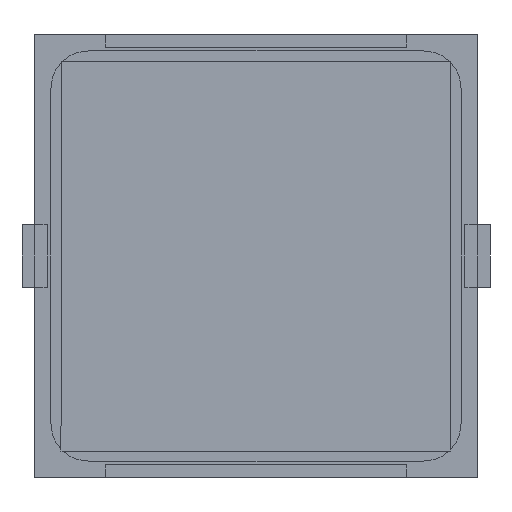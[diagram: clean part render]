
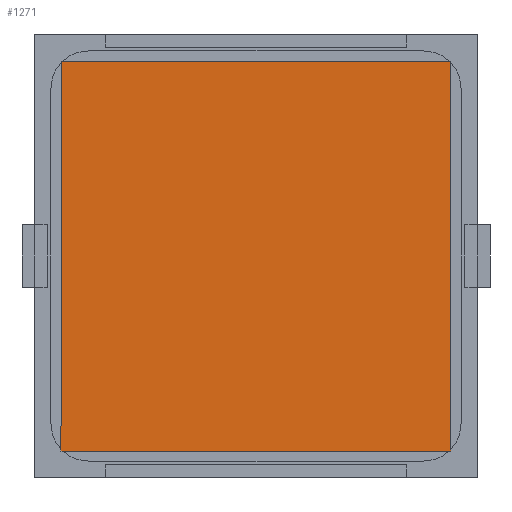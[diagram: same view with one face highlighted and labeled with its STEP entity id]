
A CAD part, front view. The second image highlights one B-rep face of the part: STEP entity #1271.
In plain terms, the highlighted planar face has unit normal (0, -1, 0).
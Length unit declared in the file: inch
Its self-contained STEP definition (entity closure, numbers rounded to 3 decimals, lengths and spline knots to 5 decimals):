
#5 = EDGE_CURVE ( 'NONE', #1664, #9965, #13847, .T. ) ;
#490 = ORIENTED_EDGE ( 'NONE', *, *, #3711, .F. ) ;
#1261 = VECTOR ( 'NONE', #11108, 39.37008 ) ;
#1271 = ADVANCED_FACE ( 'NONE', ( #4955 ), #13218, .F. ) ;
#1664 = VERTEX_POINT ( 'NONE', #1874 ) ;
#1874 = CARTESIAN_POINT ( 'NONE',  ( 0.61024, -0.005, 0.61024 ) ) ;
#2072 = DIRECTION ( 'NONE',  ( 0., 1., 0. ) ) ;
#2198 = CARTESIAN_POINT ( 'NONE',  ( -0.61024, -0.005, 0.61024 ) ) ;
#2530 = LINE ( 'NONE', #6821, #1261 ) ;
#3094 = CARTESIAN_POINT ( 'NONE',  ( -0.61024, -0.005, 0.61024 ) ) ;
#3711 = EDGE_CURVE ( 'NONE', #6055, #10353, #10504, .T. ) ;
#4620 = VECTOR ( 'NONE', #5527, 39.37008 ) ;
#4955 = FACE_OUTER_BOUND ( 'NONE', #8133, .T. ) ;
#5051 = CARTESIAN_POINT ( 'NONE',  ( 0.61024, -0.005, -0.61024 ) ) ;
#5205 = DIRECTION ( 'NONE',  ( 1., 0., 0. ) ) ;
#5527 = DIRECTION ( 'NONE',  ( 0., 0., -1. ) ) ;
#6055 = VERTEX_POINT ( 'NONE', #9160 ) ;
#6514 = ORIENTED_EDGE ( 'NONE', *, *, #10557, .F. ) ;
#6821 = CARTESIAN_POINT ( 'NONE',  ( -0.61024, -0.005, -0.61024 ) ) ;
#7497 = EDGE_CURVE ( 'NONE', #10353, #1664, #9187, .T. ) ;
#8071 = DIRECTION ( 'NONE',  ( 0., 0., 1. ) ) ;
#8133 = EDGE_LOOP ( 'NONE', ( #490, #6514, #8300, #11248 ) ) ;
#8143 = CARTESIAN_POINT ( 'NONE',  ( -0.61024, -0.005, 0.61024 ) ) ;
#8300 = ORIENTED_EDGE ( 'NONE', *, *, #5, .F. ) ;
#9160 = CARTESIAN_POINT ( 'NONE',  ( -0.61024, -0.005, -0.61024 ) ) ;
#9187 = LINE ( 'NONE', #8143, #12760 ) ;
#9965 = VERTEX_POINT ( 'NONE', #5051 ) ;
#10353 = VERTEX_POINT ( 'NONE', #2198 ) ;
#10455 = VECTOR ( 'NONE', #8071, 39.37008 ) ;
#10504 = LINE ( 'NONE', #13358, #10455 ) ;
#10557 = EDGE_CURVE ( 'NONE', #9965, #6055, #2530, .T. ) ;
#11108 = DIRECTION ( 'NONE',  ( -1., 0., 0. ) ) ;
#11248 = ORIENTED_EDGE ( 'NONE', *, *, #7497, .F. ) ;
#11476 = DIRECTION ( 'NONE',  ( 0., 0., 1. ) ) ;
#11846 = CARTESIAN_POINT ( 'NONE',  ( 0.61024, -0.005, -0.61024 ) ) ;
#12760 = VECTOR ( 'NONE', #5205, 39.37008 ) ;
#13218 = PLANE ( 'NONE',  #13850 ) ;
#13358 = CARTESIAN_POINT ( 'NONE',  ( -0.61024, -0.005, -0.61024 ) ) ;
#13847 = LINE ( 'NONE', #11846, #4620 ) ;
#13850 = AXIS2_PLACEMENT_3D ( 'NONE', #3094, #2072, #11476 ) ;
